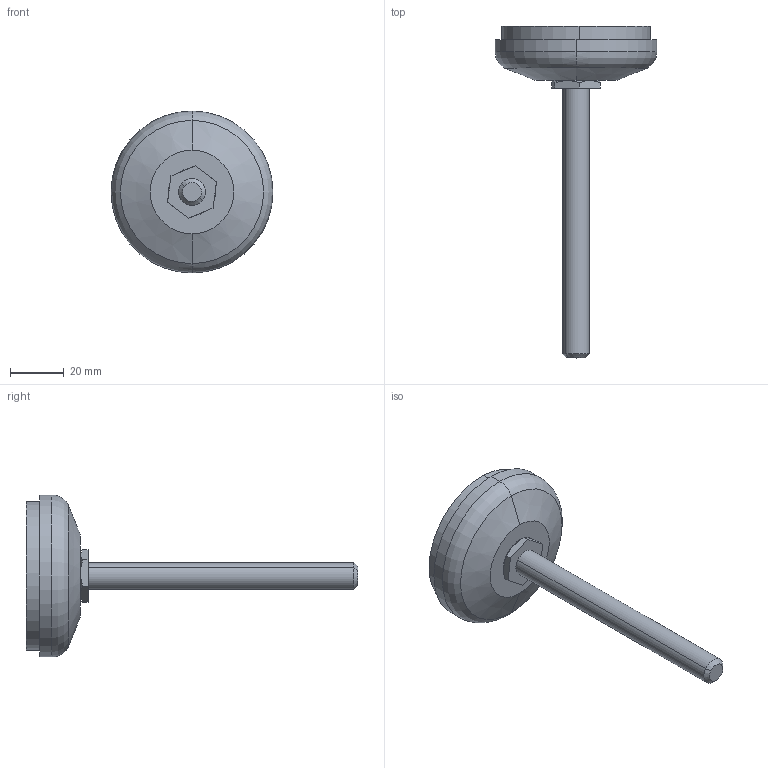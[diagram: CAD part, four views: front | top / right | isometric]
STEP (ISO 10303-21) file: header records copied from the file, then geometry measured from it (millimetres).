
FILE_DESCRIPTION (( 'STEP AP214' ), '1' );
FILE_NAME ('4.431.003.STEP', '2010-03-19T18:22:41', ( '£ukaszC' ), ( '' ), 'SwSTEP 2.0', 'SolidWorks 2008', '' );
FILE_SCHEMA (( 'AUTOMOTIVE_DESIGN' ));
Length unit declared in the file: millimetre
Products named in the file (6): 4.431.003.01; 4.431.001.02; 4.431.003; 4.431.001.05; 4.431.001.04; 4.431.001.03
Assembly tree (5 placements, depth 2):
  4.431.003
    4.431.003.01
    4.431.001.05
    4.431.001.03
    4.431.001.02
    4.431.001.04
Bounding box: 60 x 122.97 x 60 mm (x, y, z)
Volume: 46628.5 mm3; surface area: 20323.3 mm2
Topology: 5 solids, 5 shells, 69 faces, 138 edges, 84 vertices
Faces by surface type: cylinder 22, plane 21, cone 14, torus 10, sphere 2
Entity records: 2031 total; most frequent: DIRECTION 382, CARTESIAN_POINT 299, ORIENTED_EDGE 276, AXIS2_PLACEMENT_3D 167, EDGE_CURVE 138, CIRCLE 90, VERTEX_POINT 84, EDGE_LOOP 80
